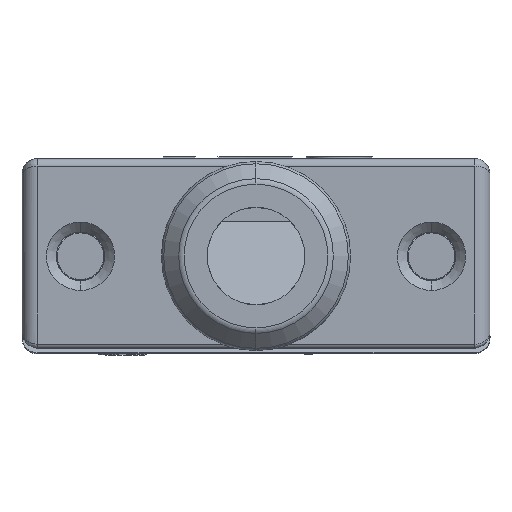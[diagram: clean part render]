
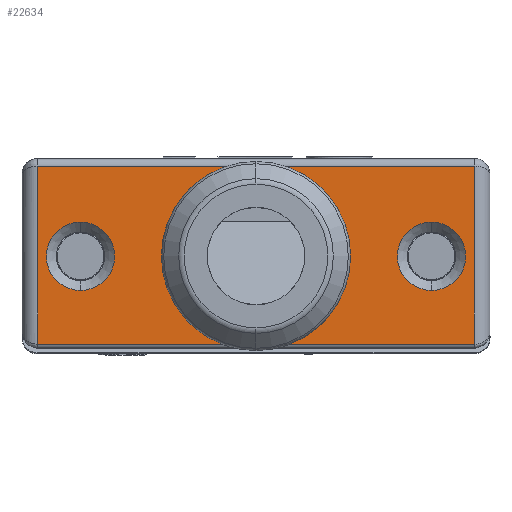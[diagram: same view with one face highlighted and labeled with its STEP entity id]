
A CAD part, front view. The second image highlights one B-rep face of the part: STEP entity #22634.
In plain terms, the highlighted planar face has unit normal (0, -1, 0).
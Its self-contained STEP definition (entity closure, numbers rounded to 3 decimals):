
#102 = DIRECTION ( 'NONE',  ( -1., 0., 0. ) ) ;
#136 = LINE ( 'NONE', #19979, #19670 ) ;
#556 = DIRECTION ( 'NONE',  ( 0., -1., 0. ) ) ;
#1229 = CIRCLE ( 'NONE', #10923, 4. ) ;
#1704 = DIRECTION ( 'NONE',  ( 0., 0., -1. ) ) ;
#1846 = VERTEX_POINT ( 'NONE', #10700 ) ;
#2027 = ORIENTED_EDGE ( 'NONE', *, *, #21830, .T. ) ;
#2036 = AXIS2_PLACEMENT_3D ( 'NONE', #19283, #4625, #8231 ) ;
#2119 = EDGE_LOOP ( 'NONE', ( #8601, #10020 ) ) ;
#2713 = FACE_OUTER_BOUND ( 'NONE', #8257, .T. ) ;
#2852 = EDGE_LOOP ( 'NONE', ( #2027, #17890 ) ) ;
#3299 = FACE_BOUND ( 'NONE', #2852, .T. ) ;
#3487 = DIRECTION ( 'NONE',  ( 0., -1., 0. ) ) ;
#4025 = DIRECTION ( 'NONE',  ( 0., 0., -1. ) ) ;
#4139 = EDGE_CURVE ( 'NONE', #13130, #21230, #9846, .T. ) ;
#4625 = DIRECTION ( 'NONE',  ( 0., 1., 0. ) ) ;
#5674 = DIRECTION ( 'NONE',  ( 1., 0., 0. ) ) ;
#6098 = EDGE_CURVE ( 'NONE', #16701, #13651, #20924, .T. ) ;
#6325 = EDGE_CURVE ( 'NONE', #6912, #16701, #16518, .T. ) ;
#6346 = CARTESIAN_POINT ( 'NONE',  ( -29.767, 1.413, 12.191 ) ) ;
#6361 = CIRCLE ( 'NONE', #9923, 1.75 ) ;
#6701 = DIRECTION ( 'NONE',  ( 0., 0., -1. ) ) ;
#6912 = VERTEX_POINT ( 'NONE', #9373 ) ;
#7471 = CARTESIAN_POINT ( 'NONE',  ( -29.767, 1.413, 7.673 ) ) ;
#7678 = CIRCLE ( 'NONE', #21391, 4. ) ;
#8231 = DIRECTION ( 'NONE',  ( 0., 0., -1. ) ) ;
#8257 = EDGE_LOOP ( 'NONE', ( #19035, #20474, #20958, #17268 ) ) ;
#8601 = ORIENTED_EDGE ( 'NONE', *, *, #11262, .T. ) ;
#8661 = VERTEX_POINT ( 'NONE', #11471 ) ;
#8893 = DIRECTION ( 'NONE',  ( 0., 0., -1. ) ) ;
#9163 = DIRECTION ( 'NONE',  ( 0., 0., 1. ) ) ;
#9237 = CIRCLE ( 'NONE', #20810, 1.75 ) ;
#9373 = CARTESIAN_POINT ( 'NONE',  ( -40.967, 1.413, 16.791 ) ) ;
#9624 = ORIENTED_EDGE ( 'NONE', *, *, #16018, .F. ) ;
#9672 = DIRECTION ( 'NONE',  ( 0., -1., 0. ) ) ;
#9846 = CIRCLE ( 'NONE', #21839, 1.75 ) ;
#9923 = AXIS2_PLACEMENT_3D ( 'NONE', #21711, #10521, #14029 ) ;
#10020 = ORIENTED_EDGE ( 'NONE', *, *, #16510, .T. ) ;
#10521 = DIRECTION ( 'NONE',  ( 0., 1., 0. ) ) ;
#10661 = CARTESIAN_POINT ( 'NONE',  ( -18.567, 1.413, 16.791 ) ) ;
#10700 = CARTESIAN_POINT ( 'NONE',  ( -38.767, 1.413, 13.928 ) ) ;
#10899 = EDGE_LOOP ( 'NONE', ( #9624, #24209 ) ) ;
#10923 = AXIS2_PLACEMENT_3D ( 'NONE', #6346, #556, #16099 ) ;
#11262 = EDGE_CURVE ( 'NONE', #15030, #1846, #6361, .T. ) ;
#11346 = DIRECTION ( 'NONE',  ( 0., 1., 0. ) ) ;
#11471 = CARTESIAN_POINT ( 'NONE',  ( -29.767, 1.413, 8.191 ) ) ;
#11816 = VECTOR ( 'NONE', #6701, 1000. ) ;
#13130 = VERTEX_POINT ( 'NONE', #21881 ) ;
#13161 = CARTESIAN_POINT ( 'NONE',  ( -29.767, 1.413, 16.191 ) ) ;
#13380 = CARTESIAN_POINT ( 'NONE',  ( -20.767, 1.413, 12.178 ) ) ;
#13651 = VERTEX_POINT ( 'NONE', #20197 ) ;
#14029 = DIRECTION ( 'NONE',  ( 0., 0., -1. ) ) ;
#14348 = VERTEX_POINT ( 'NONE', #10661 ) ;
#14581 = CIRCLE ( 'NONE', #2036, 1.75 ) ;
#14731 = CARTESIAN_POINT ( 'NONE',  ( -29.767, 1.413, 0.63 ) ) ;
#15030 = VERTEX_POINT ( 'NONE', #15376 ) ;
#15376 = CARTESIAN_POINT ( 'NONE',  ( -38.767, 1.413, 10.428 ) ) ;
#15524 = VERTEX_POINT ( 'NONE', #13161 ) ;
#15933 = EDGE_CURVE ( 'NONE', #15524, #8661, #7678, .T. ) ;
#16018 = EDGE_CURVE ( 'NONE', #8661, #15524, #1229, .T. ) ;
#16064 = CARTESIAN_POINT ( 'NONE',  ( -20.767, 1.413, 10.428 ) ) ;
#16099 = DIRECTION ( 'NONE',  ( 0., 0., -1. ) ) ;
#16202 = PLANE ( 'NONE',  #19242 ) ;
#16456 = CARTESIAN_POINT ( 'NONE',  ( -20.767, 1.413, 12.178 ) ) ;
#16510 = EDGE_CURVE ( 'NONE', #1846, #15030, #14581, .T. ) ;
#16518 = LINE ( 'NONE', #21539, #11816 ) ;
#16701 = VERTEX_POINT ( 'NONE', #18803 ) ;
#16904 = CARTESIAN_POINT ( 'NONE',  ( -29.767, 1.413, 12.191 ) ) ;
#17268 = ORIENTED_EDGE ( 'NONE', *, *, #23358, .T. ) ;
#17890 = ORIENTED_EDGE ( 'NONE', *, *, #4139, .T. ) ;
#18768 = FACE_BOUND ( 'NONE', #2119, .T. ) ;
#18803 = CARTESIAN_POINT ( 'NONE',  ( -40.967, 1.413, 7.673 ) ) ;
#19035 = ORIENTED_EDGE ( 'NONE', *, *, #6325, .T. ) ;
#19242 = AXIS2_PLACEMENT_3D ( 'NONE', #14731, #3487, #1704 ) ;
#19283 = CARTESIAN_POINT ( 'NONE',  ( -38.767, 1.413, 12.178 ) ) ;
#19670 = VECTOR ( 'NONE', #9163, 1000. ) ;
#19979 = CARTESIAN_POINT ( 'NONE',  ( -18.567, 1.413, 0.63 ) ) ;
#20197 = CARTESIAN_POINT ( 'NONE',  ( -18.567, 1.413, 7.673 ) ) ;
#20320 = VECTOR ( 'NONE', #5674, 1000. ) ;
#20474 = ORIENTED_EDGE ( 'NONE', *, *, #6098, .T. ) ;
#20480 = CARTESIAN_POINT ( 'NONE',  ( -41.767, 1.413, 16.791 ) ) ;
#20651 = DIRECTION ( 'NONE',  ( 0., 0., -1. ) ) ;
#20810 = AXIS2_PLACEMENT_3D ( 'NONE', #16456, #21850, #8893 ) ;
#20924 = LINE ( 'NONE', #7471, #20320 ) ;
#20958 = ORIENTED_EDGE ( 'NONE', *, *, #22115, .T. ) ;
#21230 = VERTEX_POINT ( 'NONE', #16064 ) ;
#21391 = AXIS2_PLACEMENT_3D ( 'NONE', #16904, #9672, #20651 ) ;
#21539 = CARTESIAN_POINT ( 'NONE',  ( -40.967, 1.413, 7.191 ) ) ;
#21711 = CARTESIAN_POINT ( 'NONE',  ( -38.767, 1.413, 12.178 ) ) ;
#21830 = EDGE_CURVE ( 'NONE', #21230, #13130, #9237, .T. ) ;
#21839 = AXIS2_PLACEMENT_3D ( 'NONE', #13380, #11346, #4025 ) ;
#21850 = DIRECTION ( 'NONE',  ( 0., 1., 0. ) ) ;
#21881 = CARTESIAN_POINT ( 'NONE',  ( -20.767, 1.413, 13.928 ) ) ;
#21984 = FACE_BOUND ( 'NONE', #10899, .T. ) ;
#22115 = EDGE_CURVE ( 'NONE', #13651, #14348, #136, .T. ) ;
#22557 = LINE ( 'NONE', #20480, #23964 ) ;
#22634 = ADVANCED_FACE ( 'NONE', ( #18768, #3299, #2713, #21984 ), #16202, .T. ) ;
#23358 = EDGE_CURVE ( 'NONE', #14348, #6912, #22557, .T. ) ;
#23964 = VECTOR ( 'NONE', #102, 1000. ) ;
#24209 = ORIENTED_EDGE ( 'NONE', *, *, #15933, .F. ) ;
